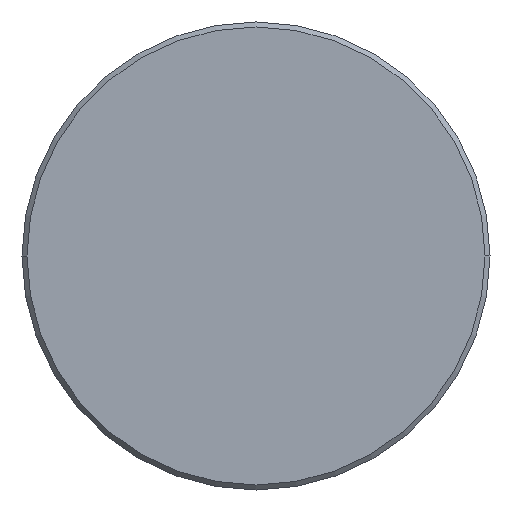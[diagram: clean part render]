
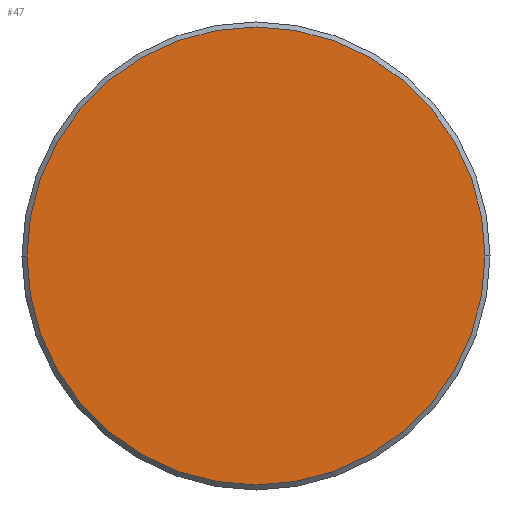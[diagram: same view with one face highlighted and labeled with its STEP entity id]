
A CAD part, left-side view. The second image highlights one B-rep face of the part: STEP entity #47.
In plain terms, the highlighted planar face has unit normal (-1, 0, 0).
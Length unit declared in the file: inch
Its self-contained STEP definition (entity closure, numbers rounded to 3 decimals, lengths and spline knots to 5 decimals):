
#13 = CARTESIAN_POINT ( 'NONE',  ( 0., 0., 0. ) ) ;
#27 = AXIS2_PLACEMENT_3D ( 'NONE', #320, #200, #374 ) ;
#29 = FACE_OUTER_BOUND ( 'NONE', #326, .T. ) ;
#35 = CARTESIAN_POINT ( 'NONE',  ( 0., 0.1835, 0. ) ) ;
#47 = ADVANCED_FACE ( 'NONE', ( #29 ), #102, .T. ) ;
#98 = AXIS2_PLACEMENT_3D ( 'NONE', #13, #192, #172 ) ;
#102 = PLANE ( 'NONE',  #27 ) ;
#106 = EDGE_CURVE ( 'NONE', #216, #222, #308, .T. ) ;
#120 = DIRECTION ( 'NONE',  ( 0., -1., 0. ) ) ;
#167 = CARTESIAN_POINT ( 'NONE',  ( 0., -0.1835, 0. ) ) ;
#172 = DIRECTION ( 'NONE',  ( 0., -1., 0. ) ) ;
#174 = CARTESIAN_POINT ( 'NONE',  ( 0., 0., 0. ) ) ;
#182 = ORIENTED_EDGE ( 'NONE', *, *, #106, .T. ) ;
#192 = DIRECTION ( 'NONE',  ( -1., 0., 0. ) ) ;
#200 = DIRECTION ( 'NONE',  ( -1., 0., 0. ) ) ;
#216 = VERTEX_POINT ( 'NONE', #35 ) ;
#222 = VERTEX_POINT ( 'NONE', #167 ) ;
#272 = EDGE_CURVE ( 'NONE', #222, #216, #325, .T. ) ;
#290 = DIRECTION ( 'NONE',  ( -1., 0., 0. ) ) ;
#305 = ORIENTED_EDGE ( 'NONE', *, *, #272, .T. ) ;
#308 = CIRCLE ( 'NONE', #329, 0.1835 ) ;
#320 = CARTESIAN_POINT ( 'NONE',  ( 0., 0., 0. ) ) ;
#325 = CIRCLE ( 'NONE', #98, 0.1835 ) ;
#326 = EDGE_LOOP ( 'NONE', ( #182, #305 ) ) ;
#329 = AXIS2_PLACEMENT_3D ( 'NONE', #174, #290, #120 ) ;
#374 = DIRECTION ( 'NONE',  ( 0., -1., 0. ) ) ;
